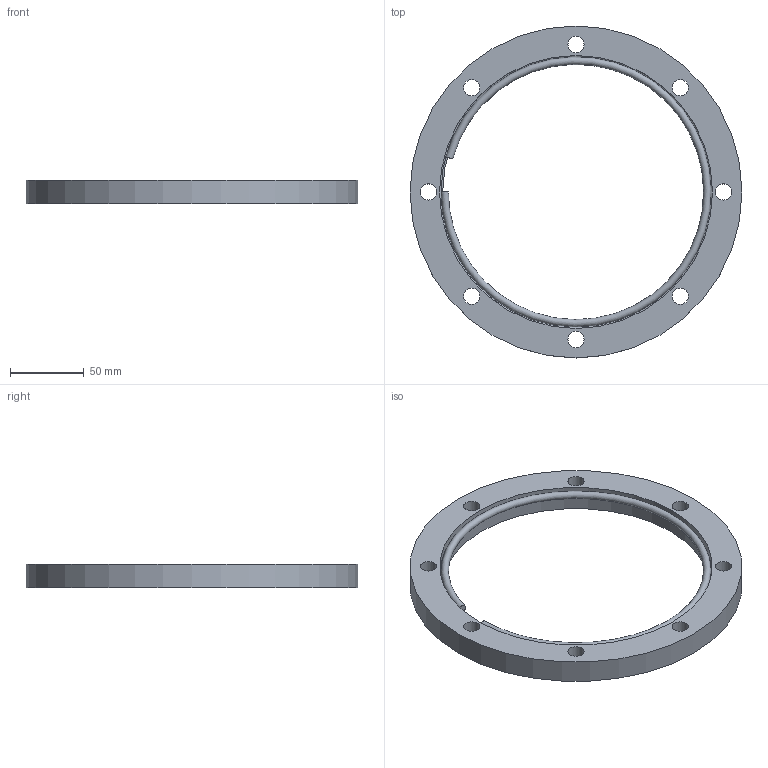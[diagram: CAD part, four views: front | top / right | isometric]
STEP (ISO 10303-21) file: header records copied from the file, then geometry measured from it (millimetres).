
FILE_DESCRIPTION( ( 'Unknown' ), '1' );
FILE_NAME( 'X:/Daten ( aktueller Bestand )/Projekte und Zeichnungen/Solid Edge/STP-Dateien/ISO-K Teile und Zubehör/6593.stp', 'Unknown', ( 'Unknown' ), ( 'Unknown' ), 'PSStep 14.0', 'Unknown', ' ' );
FILE_SCHEMA( ( 'AUTOMOTIVE_DESIGN { 1 0 10303 214 1 1 1 1 }' ) );
Length unit declared in the file: millimetre
Products named in the file (3): Assem1; 1_1; 2_1
Assembly tree (2 placements, depth 2):
  Assem1
    1_1
    2_1
Bounding box: 225 x 225 x 16 mm (x, y, z)
Volume: 216921.6 mm3; surface area: 59815.1 mm2
Topology: 2 solids, 2 shells, 18 faces, 47 edges, 34 vertices
Faces by surface type: cylinder 11, plane 5, torus 2
Full cylindrical faces by diameter (mm): 11 x8, 180.7 x1, 185 x1, 225 x1
Entity records: 668 total; most frequent: DIRECTION 92, CARTESIAN_POINT 71, EDGE_LOOP 50, ORIENTED_EDGE 50, AXIS2_PLACEMENT_3D 46, FACE_OUTER_BOUND 31, EDGE_CURVE 25, VERTEX_POINT 25
